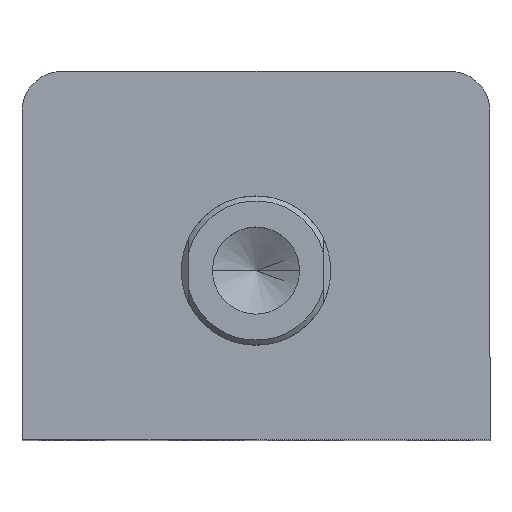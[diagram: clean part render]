
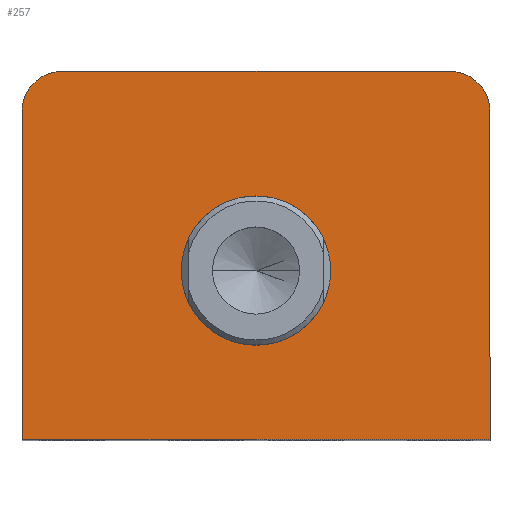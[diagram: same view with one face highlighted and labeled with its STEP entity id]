
A CAD part, top view. The second image highlights one B-rep face of the part: STEP entity #257.
In plain terms, the highlighted planar face has unit normal (0, 0, 1).
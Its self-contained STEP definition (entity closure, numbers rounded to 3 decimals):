
#173 = AXIS2_PLACEMENT_3D ( 'NONE', #1221, #1227, #1224 ) ;
#178 = AXIS2_PLACEMENT_3D ( 'NONE', #1274, #1273, #1272 ) ;
#186 = AXIS2_PLACEMENT_3D ( 'NONE', #1225, #1223, #1222 ) ;
#190 = AXIS2_PLACEMENT_3D ( 'NONE', #496, #616, #494 ) ;
#257 = ADVANCED_FACE ( 'NONE', ( #1419, #1416 ), #2248, .T. ) ;
#320 = VERTEX_POINT ( 'NONE', #2062 ) ;
#326 = VERTEX_POINT ( 'NONE', #2053 ) ;
#341 = VERTEX_POINT ( 'NONE', #2032 ) ;
#349 = VERTEX_POINT ( 'NONE', #2020 ) ;
#368 = VERTEX_POINT ( 'NONE', #1985 ) ;
#371 = VERTEX_POINT ( 'NONE', #1982 ) ;
#386 = VERTEX_POINT ( 'NONE', #1899 ) ;
#397 = VERTEX_POINT ( 'NONE', #1864 ) ;
#494 = DIRECTION ( 'NONE',  ( 1., 0., 0. ) ) ;
#495 = VECTOR ( 'NONE', #1194, 1000. ) ;
#496 = CARTESIAN_POINT ( 'NONE',  ( 0., -3., 70. ) ) ;
#499 = LINE ( 'NONE', #1190, #495 ) ;
#507 = CIRCLE ( 'NONE', #190, 15. ) ;
#616 = DIRECTION ( 'NONE',  ( 0., 0., 1. ) ) ;
#733 = CIRCLE ( 'NONE', #186, 8. ) ;
#744 = CIRCLE ( 'NONE', #178, 8. ) ;
#754 = VECTOR ( 'NONE', #1301, 1000. ) ;
#757 = LINE ( 'NONE', #1302, #754 ) ;
#770 = VECTOR ( 'NONE', #1240, 1000. ) ;
#772 = LINE ( 'NONE', #1266, #770 ) ;
#775 = CIRCLE ( 'NONE', #173, 15. ) ;
#781 = VECTOR ( 'NONE', #1306, 1000. ) ;
#787 = LINE ( 'NONE', #916, #781 ) ;
#909 = EDGE_CURVE ( 'NONE', #397, #386, #787, .T. ) ;
#916 = CARTESIAN_POINT ( 'NONE',  ( -47., 37., 70. ) ) ;
#1048 = EDGE_CURVE ( 'NONE', #326, #349, #775, .T. ) ;
#1049 = EDGE_CURVE ( 'NONE', #371, #368, #772, .T. ) ;
#1058 = EDGE_CURVE ( 'NONE', #320, #371, #757, .T. ) ;
#1065 = EDGE_CURVE ( 'NONE', #386, #320, #744, .T. ) ;
#1075 = EDGE_CURVE ( 'NONE', #341, #397, #733, .T. ) ;
#1105 = EDGE_CURVE ( 'NONE', #368, #341, #499, .T. ) ;
#1108 = EDGE_CURVE ( 'NONE', #349, #326, #507, .T. ) ;
#1190 = CARTESIAN_POINT ( 'NONE',  ( 47., 37., 70. ) ) ;
#1194 = DIRECTION ( 'NONE',  ( 0., 1., 0. ) ) ;
#1221 = CARTESIAN_POINT ( 'NONE',  ( 0., -3., 70. ) ) ;
#1222 = DIRECTION ( 'NONE',  ( 1., 0., 0. ) ) ;
#1223 = DIRECTION ( 'NONE',  ( 0., 0., 1. ) ) ;
#1224 = DIRECTION ( 'NONE',  ( 1., 0., 0. ) ) ;
#1225 = CARTESIAN_POINT ( 'NONE',  ( 39., 29., 70. ) ) ;
#1227 = DIRECTION ( 'NONE',  ( 0., 0., 1. ) ) ;
#1240 = DIRECTION ( 'NONE',  ( 1., 0., 0. ) ) ;
#1266 = CARTESIAN_POINT ( 'NONE',  ( -47., -37., 70. ) ) ;
#1272 = DIRECTION ( 'NONE',  ( 1., 0., 0. ) ) ;
#1273 = DIRECTION ( 'NONE',  ( 0., 0., 1. ) ) ;
#1274 = CARTESIAN_POINT ( 'NONE',  ( -39., 29., 70. ) ) ;
#1301 = DIRECTION ( 'NONE',  ( 0., -1., 0. ) ) ;
#1302 = CARTESIAN_POINT ( 'NONE',  ( -47., 37., 70. ) ) ;
#1306 = DIRECTION ( 'NONE',  ( -1., 0., 0. ) ) ;
#1416 = FACE_OUTER_BOUND ( 'NONE', #2490, .T. ) ;
#1419 = FACE_BOUND ( 'NONE', #2455, .T. ) ;
#1724 = ORIENTED_EDGE ( 'NONE', *, *, #1075, .T. ) ;
#1728 = ORIENTED_EDGE ( 'NONE', *, *, #1058, .T. ) ;
#1733 = ORIENTED_EDGE ( 'NONE', *, *, #1108, .F. ) ;
#1736 = ORIENTED_EDGE ( 'NONE', *, *, #1048, .F. ) ;
#1738 = ORIENTED_EDGE ( 'NONE', *, *, #1049, .T. ) ;
#1741 = ORIENTED_EDGE ( 'NONE', *, *, #1105, .T. ) ;
#1743 = ORIENTED_EDGE ( 'NONE', *, *, #909, .T. ) ;
#1748 = ORIENTED_EDGE ( 'NONE', *, *, #1065, .T. ) ;
#1864 = CARTESIAN_POINT ( 'NONE',  ( 39., 37., 70. ) ) ;
#1899 = CARTESIAN_POINT ( 'NONE',  ( -39., 37., 70. ) ) ;
#1982 = CARTESIAN_POINT ( 'NONE',  ( -47., -37., 70. ) ) ;
#1985 = CARTESIAN_POINT ( 'NONE',  ( 47., -37., 70. ) ) ;
#2020 = CARTESIAN_POINT ( 'NONE',  ( -15., -3., 70. ) ) ;
#2032 = CARTESIAN_POINT ( 'NONE',  ( 47., 29., 70. ) ) ;
#2053 = CARTESIAN_POINT ( 'NONE',  ( 15., -3., 70. ) ) ;
#2062 = CARTESIAN_POINT ( 'NONE',  ( -47., 29., 70. ) ) ;
#2074 = DIRECTION ( 'NONE',  ( 0., 0., 1. ) ) ;
#2188 = CARTESIAN_POINT ( 'NONE',  ( 0., 0., 70. ) ) ;
#2248 = PLANE ( 'NONE',  #2551 ) ;
#2277 = DIRECTION ( 'NONE',  ( 1., 0., 0. ) ) ;
#2455 = EDGE_LOOP ( 'NONE', ( #1736, #1733 ) ) ;
#2490 = EDGE_LOOP ( 'NONE', ( #1743, #1748, #1728, #1738, #1741, #1724 ) ) ;
#2551 = AXIS2_PLACEMENT_3D ( 'NONE', #2188, #2074, #2277 ) ;
